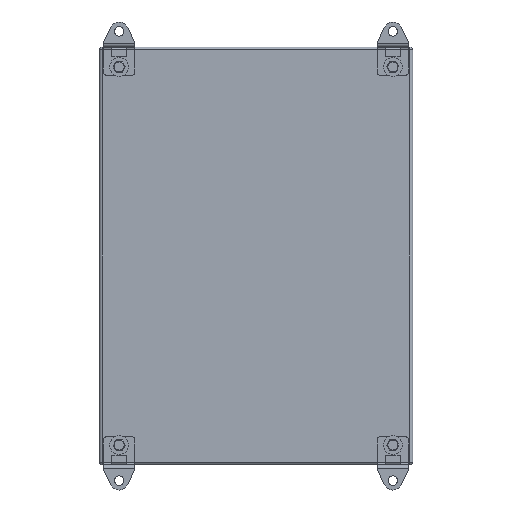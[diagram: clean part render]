
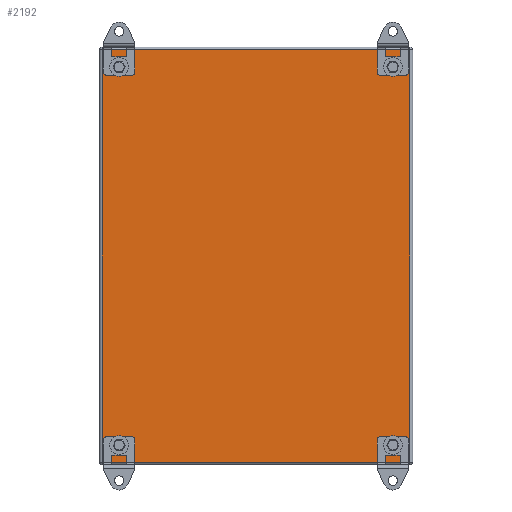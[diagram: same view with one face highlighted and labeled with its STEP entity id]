
A CAD part, left-side view. The second image highlights one B-rep face of the part: STEP entity #2192.
In plain terms, the highlighted planar face has unit normal (-1, 0, 0).
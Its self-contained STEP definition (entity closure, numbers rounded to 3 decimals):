
#2192=ADVANCED_FACE('',(#3158,#3160,#3162,#3164,#3166),#3168,.F.);
#3158=FACE_BOUND('',#3159,.T.);
#3159=EDGE_LOOP('',(#7437,#7438,#7439,#7440));
#3160=FACE_BOUND('',#3161,.T.);
#3161=EDGE_LOOP('',(#7441));
#3162=FACE_BOUND('',#3163,.T.);
#3163=EDGE_LOOP('',(#7442));
#3164=FACE_BOUND('',#3165,.T.);
#3165=EDGE_LOOP('',(#7443));
#3166=FACE_BOUND('',#3167,.T.);
#3167=EDGE_LOOP('',(#7444));
#3168=PLANE('',#3169);
#3169=AXIS2_PLACEMENT_3D('',#3170,#3171,#3172);
#3170=CARTESIAN_POINT('',(0.,0.,0.));
#3171=DIRECTION('',(1.,0.,0.));
#3172=DIRECTION('',(0.,1.,0.));
#7437=ORIENTED_EDGE('',*,*,#9196,.T.);
#7438=ORIENTED_EDGE('',*,*,#9197,.T.);
#7439=ORIENTED_EDGE('',*,*,#9198,.T.);
#7440=ORIENTED_EDGE('',*,*,#9199,.T.);
#7441=ORIENTED_EDGE('',*,*,#9127,.T.);
#7442=ORIENTED_EDGE('',*,*,#9128,.T.);
#7443=ORIENTED_EDGE('',*,*,#9129,.T.);
#7444=ORIENTED_EDGE('',*,*,#9130,.T.);
#9127=EDGE_CURVE('',#10106,#10106,#10107,.F.);
#9128=EDGE_CURVE('',#10108,#10108,#10109,.F.);
#9129=EDGE_CURVE('',#10110,#10110,#10111,.F.);
#9130=EDGE_CURVE('',#10112,#10112,#10113,.F.);
#9196=EDGE_CURVE('',#10220,#10221,#10222,.T.);
#9197=EDGE_CURVE('',#10221,#10223,#10224,.T.);
#9198=EDGE_CURVE('',#10223,#10225,#10226,.T.);
#9199=EDGE_CURVE('',#10225,#10220,#10227,.T.);
#10106=VERTEX_POINT('',#11770);
#10107=CIRCLE('',#11771,3.25);
#10108=VERTEX_POINT('',#11775);
#10109=CIRCLE('',#11776,3.25);
#10110=VERTEX_POINT('',#11780);
#10111=CIRCLE('',#11781,3.25);
#10112=VERTEX_POINT('',#11785);
#10113=CIRCLE('',#11786,3.25);
#10220=VERTEX_POINT('',#12031);
#10221=VERTEX_POINT('',#12032);
#10222=LINE('',#12033,#12034);
#10223=VERTEX_POINT('',#12036);
#10224=LINE('',#12037,#12038);
#10225=VERTEX_POINT('',#12040);
#10226=LINE('',#12041,#12042);
#10227=LINE('',#12044,#12045);
#11770=CARTESIAN_POINT('',(0.,127.75,181.));
#11771=AXIS2_PLACEMENT_3D('',#11772,#11773,#11774);
#11772=CARTESIAN_POINT('',(0.,131.,181.));
#11773=DIRECTION('',(-1.,0.,0.));
#11774=DIRECTION('',(0.,-1.,0.));
#11775=CARTESIAN_POINT('',(0.,-134.25,-181.));
#11776=AXIS2_PLACEMENT_3D('',#11777,#11778,#11779);
#11777=CARTESIAN_POINT('',(0.,-131.,-181.));
#11778=DIRECTION('',(-1.,0.,0.));
#11779=DIRECTION('',(0.,-1.,0.));
#11780=CARTESIAN_POINT('',(0.,127.75,-181.));
#11781=AXIS2_PLACEMENT_3D('',#11782,#11783,#11784);
#11782=CARTESIAN_POINT('',(0.,131.,-181.));
#11783=DIRECTION('',(-1.,0.,0.));
#11784=DIRECTION('',(0.,-1.,0.));
#11785=CARTESIAN_POINT('',(0.,-134.25,181.));
#11786=AXIS2_PLACEMENT_3D('',#11787,#11788,#11789);
#11787=CARTESIAN_POINT('',(0.,-131.,181.));
#11788=DIRECTION('',(-1.,0.,0.));
#11789=DIRECTION('',(0.,-1.,0.));
#12031=CARTESIAN_POINT('',(0.,147.2,197.2));
#12032=CARTESIAN_POINT('',(0.,147.2,-197.2));
#12033=CARTESIAN_POINT('',(0.,147.2,197.2));
#12034=VECTOR('',#12035,1.);
#12035=DIRECTION('',(0.,0.,-1.));
#12036=CARTESIAN_POINT('',(0.,-147.2,-197.2));
#12037=CARTESIAN_POINT('',(0.,147.2,-197.2));
#12038=VECTOR('',#12039,1.);
#12039=DIRECTION('',(0.,-1.,0.));
#12040=CARTESIAN_POINT('',(0.,-147.2,197.2));
#12041=CARTESIAN_POINT('',(0.,-147.2,-197.2));
#12042=VECTOR('',#12043,1.);
#12043=DIRECTION('',(0.,0.,1.));
#12044=CARTESIAN_POINT('',(0.,-147.2,197.2));
#12045=VECTOR('',#12046,1.);
#12046=DIRECTION('',(0.,1.,0.));
